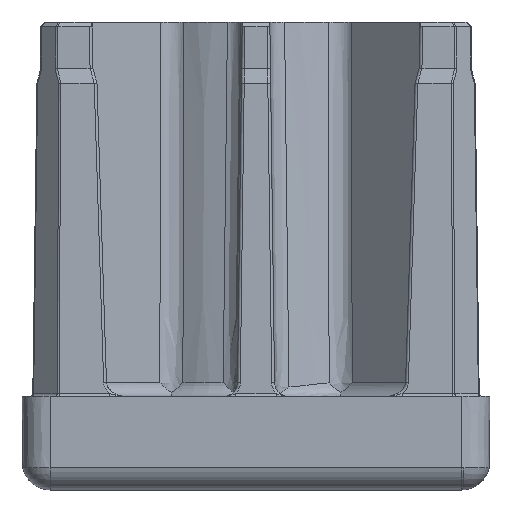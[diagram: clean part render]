
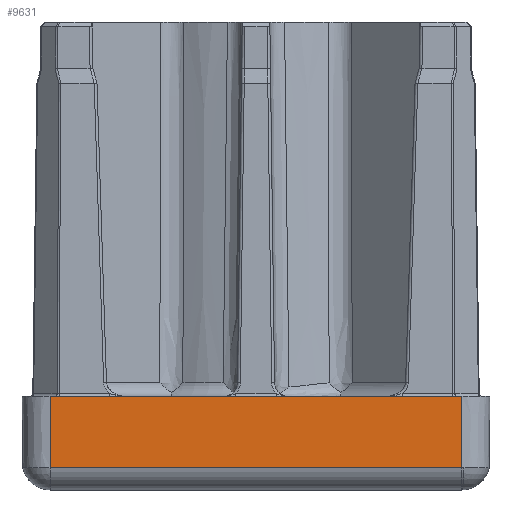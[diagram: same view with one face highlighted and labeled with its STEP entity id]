
A CAD part, front view. The second image highlights one B-rep face of the part: STEP entity #9631.
In plain terms, the highlighted planar face has unit normal (0, -1, -0.009).
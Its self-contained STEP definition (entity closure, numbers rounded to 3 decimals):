
#5844=CARTESIAN_POINT('Vertex',(-22.,-24.933,2.372)) ;
#5851=CARTESIAN_POINT('Vertex',(22.,-24.933,2.372)) ;
#5854=CARTESIAN_POINT('Line Origine',(0.,-24.933,2.372)) ;
#9601=CARTESIAN_POINT('Axis2P3D Location',(0.,-25.,10.)) ;
#9606=CARTESIAN_POINT('Line Origine',(22.,-24.967,6.186)) ;
#9610=CARTESIAN_POINT('Vertex',(22.,-25.,10.)) ;
#9613=CARTESIAN_POINT('Line Origine',(0.,-25.,10.)) ;
#9617=CARTESIAN_POINT('Vertex',(-22.,-25.,10.)) ;
#9620=CARTESIAN_POINT('Line Origine',(-22.,-24.967,6.186)) ;
#5855=DIRECTION('Vector Direction',(-1.,0.,0.)) ;
#9602=DIRECTION('Axis2P3D Direction',(0.,1.,0.009)) ;
#9603=DIRECTION('Axis2P3D XDirection',(-1.,0.,0.)) ;
#9607=DIRECTION('Vector Direction',(0.,-0.009,1.)) ;
#9614=DIRECTION('Vector Direction',(-1.,0.,0.)) ;
#9621=DIRECTION('Vector Direction',(0.,-0.009,1.)) ;
#9604=AXIS2_PLACEMENT_3D('Plane Axis2P3D',#9601,#9602,#9603) ;
#9626=ORIENTED_EDGE('',*,*,#5858,.F.) ;
#9627=ORIENTED_EDGE('',*,*,#9612,.F.) ;
#9628=ORIENTED_EDGE('',*,*,#9619,.F.) ;
#9629=ORIENTED_EDGE('',*,*,#9624,.T.) ;
#5856=VECTOR('Line Direction',#5855,1.) ;
#9608=VECTOR('Line Direction',#9607,1.) ;
#9615=VECTOR('Line Direction',#9614,1.) ;
#9622=VECTOR('Line Direction',#9621,1.) ;
#9631=ADVANCED_FACE('PartBody',(#9630),#9605,.F.) ;
#5858=EDGE_CURVE('',#5852,#5845,#5857,.T.) ;
#9612=EDGE_CURVE('',#9611,#5852,#9609,.F.) ;
#9619=EDGE_CURVE('',#9618,#9611,#9616,.F.) ;
#9624=EDGE_CURVE('',#9618,#5845,#9623,.F.) ;
#9625=EDGE_LOOP('',(#9626,#9627,#9628,#9629)) ;
#9630=FACE_OUTER_BOUND('',#9625,.T.) ;
#5857=LINE('Line',#5854,#5856) ;
#9609=LINE('Line',#9606,#9608) ;
#9616=LINE('Line',#9613,#9615) ;
#9623=LINE('Line',#9620,#9622) ;
#9605=PLANE('',#9604) ;
#5845=VERTEX_POINT('',#5844) ;
#5852=VERTEX_POINT('',#5851) ;
#9611=VERTEX_POINT('',#9610) ;
#9618=VERTEX_POINT('',#9617) ;
